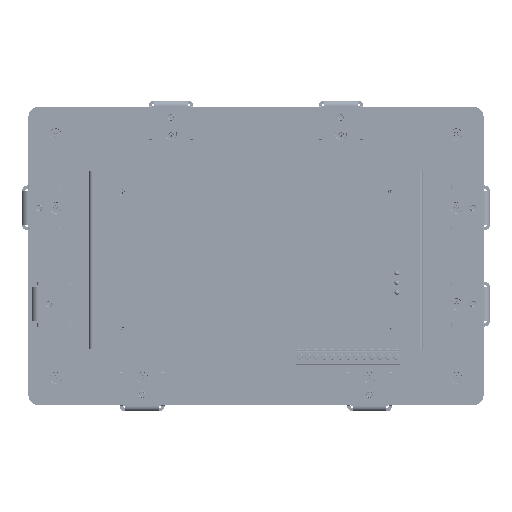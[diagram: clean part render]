
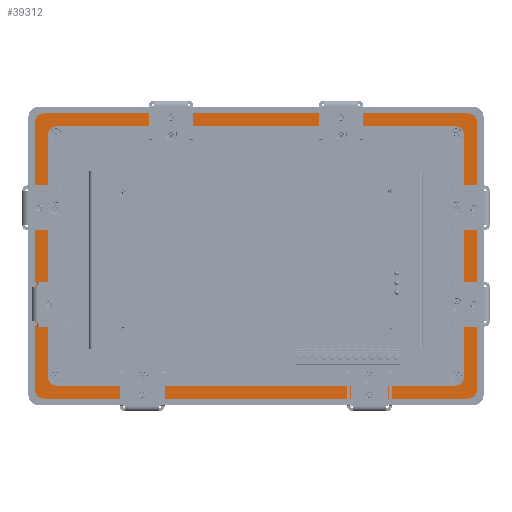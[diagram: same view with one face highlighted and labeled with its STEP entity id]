
A CAD part, left-side view. The second image highlights one B-rep face of the part: STEP entity #39312.
In plain terms, the highlighted planar face has unit normal (-1, 0, 0).
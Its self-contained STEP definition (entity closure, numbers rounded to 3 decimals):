
#39312=ADVANCED_FACE('',(#96126,#96128),#96130,.F.);
#96126=FACE_BOUND('',#96127,.T.);
#96127=EDGE_LOOP('',(#149081,#149082,#149083,#149084,#149085,#149086,#149087,#149088));
#96128=FACE_BOUND('',#96129,.T.);
#96129=EDGE_LOOP('',(#149089,#149090,#149091,#149092,#149093,#149094,#149095,#149096));
#96130=PLANE('',#96131);
#96131=AXIS2_PLACEMENT_3D('',#96132,#96133,#96134);
#96132=CARTESIAN_POINT('',(-5.,0.,0.));
#96133=DIRECTION('',(1.,0.,0.));
#96134=DIRECTION('',(0.,1.,0.));
#149081=ORIENTED_EDGE('',*,*,#180272,.F.);
#149082=ORIENTED_EDGE('',*,*,#180273,.F.);
#149083=ORIENTED_EDGE('',*,*,#180274,.F.);
#149084=ORIENTED_EDGE('',*,*,#180275,.F.);
#149085=ORIENTED_EDGE('',*,*,#180276,.F.);
#149086=ORIENTED_EDGE('',*,*,#180277,.F.);
#149087=ORIENTED_EDGE('',*,*,#180278,.F.);
#149088=ORIENTED_EDGE('',*,*,#180279,.F.);
#149089=ORIENTED_EDGE('',*,*,#179857,.T.);
#149090=ORIENTED_EDGE('',*,*,#179855,.T.);
#149091=ORIENTED_EDGE('',*,*,#179837,.T.);
#149092=ORIENTED_EDGE('',*,*,#179835,.T.);
#149093=ORIENTED_EDGE('',*,*,#179817,.T.);
#149094=ORIENTED_EDGE('',*,*,#179815,.T.);
#149095=ORIENTED_EDGE('',*,*,#179797,.T.);
#149096=ORIENTED_EDGE('',*,*,#179875,.T.);
#179797=EDGE_CURVE('',#229971,#229969,#229972,.F.);
#179815=EDGE_CURVE('',#230006,#229971,#230007,.F.);
#179817=EDGE_CURVE('',#230009,#230006,#230010,.F.);
#179835=EDGE_CURVE('',#230044,#230009,#230045,.F.);
#179837=EDGE_CURVE('',#230047,#230044,#230048,.F.);
#179855=EDGE_CURVE('',#230082,#230047,#230083,.F.);
#179857=EDGE_CURVE('',#230085,#230082,#230086,.F.);
#179875=EDGE_CURVE('',#229969,#230085,#230120,.F.);
#180272=EDGE_CURVE('',#230873,#230874,#230875,.T.);
#180273=EDGE_CURVE('',#230876,#230873,#230877,.T.);
#180274=EDGE_CURVE('',#230878,#230876,#230879,.T.);
#180275=EDGE_CURVE('',#230880,#230878,#230881,.T.);
#180276=EDGE_CURVE('',#230882,#230880,#230883,.T.);
#180277=EDGE_CURVE('',#230884,#230882,#230885,.T.);
#180278=EDGE_CURVE('',#230886,#230884,#230887,.T.);
#180279=EDGE_CURVE('',#230874,#230886,#230888,.T.);
#229969=VERTEX_POINT('',#299646);
#229971=VERTEX_POINT('',#299650);
#229972=LINE('',#299651,#299652);
#230006=VERTEX_POINT('',#299721);
#230007=CIRCLE('',#299722,6.);
#230009=VERTEX_POINT('',#299729);
#230010=LINE('',#299730,#299731);
#230044=VERTEX_POINT('',#299800);
#230045=CIRCLE('',#299801,6.);
#230047=VERTEX_POINT('',#299808);
#230048=LINE('',#299809,#299810);
#230082=VERTEX_POINT('',#299879);
#230083=CIRCLE('',#299880,6.);
#230085=VERTEX_POINT('',#299887);
#230086=LINE('',#299888,#299889);
#230120=CIRCLE('',#299958,6.);
#230873=VERTEX_POINT('',#301706);
#230874=VERTEX_POINT('',#301707);
#230875=LINE('',#301708,#301709);
#230876=VERTEX_POINT('',#301711);
#230877=CIRCLE('',#301712,6.);
#230878=VERTEX_POINT('',#301716);
#230879=LINE('',#301717,#301718);
#230880=VERTEX_POINT('',#301720);
#230881=CIRCLE('',#301721,6.);
#230882=VERTEX_POINT('',#301725);
#230883=LINE('',#301726,#301727);
#230884=VERTEX_POINT('',#301729);
#230885=CIRCLE('',#301730,6.);
#230886=VERTEX_POINT('',#301734);
#230887=LINE('',#301735,#301736);
#230888=CIRCLE('',#301738,6.);
#299646=CARTESIAN_POINT('',(-5.,124.,-81.));
#299650=CARTESIAN_POINT('',(-5.,-124.,-81.));
#299651=CARTESIAN_POINT('',(-5.,124.,-81.));
#299652=VECTOR('',#299653,1.);
#299653=DIRECTION('',(0.,-1.,0.));
#299721=CARTESIAN_POINT('',(-5.,-130.,-75.));
#299722=AXIS2_PLACEMENT_3D('',#299723,#299724,#299725);
#299723=CARTESIAN_POINT('',(-5.,-124.,-75.));
#299724=DIRECTION('',(-1.,0.,0.));
#299725=DIRECTION('',(0.,0.,-1.));
#299729=CARTESIAN_POINT('',(-5.,-130.,75.));
#299730=CARTESIAN_POINT('',(-5.,-130.,-75.));
#299731=VECTOR('',#299732,1.);
#299732=DIRECTION('',(0.,0.,1.));
#299800=CARTESIAN_POINT('',(-5.,-124.,81.));
#299801=AXIS2_PLACEMENT_3D('',#299802,#299803,#299804);
#299802=CARTESIAN_POINT('',(-5.,-124.,75.));
#299803=DIRECTION('',(-1.,0.,0.));
#299804=DIRECTION('',(0.,-1.,0.));
#299808=CARTESIAN_POINT('',(-5.,124.,81.));
#299809=CARTESIAN_POINT('',(-5.,-124.,81.));
#299810=VECTOR('',#299811,1.);
#299811=DIRECTION('',(0.,1.,0.));
#299879=CARTESIAN_POINT('',(-5.,130.,75.));
#299880=AXIS2_PLACEMENT_3D('',#299881,#299882,#299883);
#299881=CARTESIAN_POINT('',(-5.,124.,75.));
#299882=DIRECTION('',(-1.,0.,0.));
#299883=DIRECTION('',(0.,0.,1.));
#299887=CARTESIAN_POINT('',(-5.,130.,-75.));
#299888=CARTESIAN_POINT('',(-5.,130.,75.));
#299889=VECTOR('',#299890,1.);
#299890=DIRECTION('',(0.,0.,-1.));
#299958=AXIS2_PLACEMENT_3D('',#299959,#299960,#299961);
#299959=CARTESIAN_POINT('',(-5.,124.,-75.));
#299960=DIRECTION('',(-1.,0.,0.));
#299961=DIRECTION('',(0.,1.,0.));
#301706=CARTESIAN_POINT('',(-5.,132.,89.));
#301707=CARTESIAN_POINT('',(-5.,-132.,89.));
#301708=CARTESIAN_POINT('',(-5.,132.,89.));
#301709=VECTOR('',#301710,1.);
#301710=DIRECTION('',(0.,-1.,0.));
#301711=CARTESIAN_POINT('',(-5.,138.,83.));
#301712=AXIS2_PLACEMENT_3D('',#301713,#301714,#301715);
#301713=CARTESIAN_POINT('',(-5.,132.,83.));
#301714=DIRECTION('',(1.,0.,0.));
#301715=DIRECTION('',(0.,1.,0.));
#301716=CARTESIAN_POINT('',(-5.,138.,-83.));
#301717=CARTESIAN_POINT('',(-5.,138.,-83.));
#301718=VECTOR('',#301719,1.);
#301719=DIRECTION('',(0.,0.,1.));
#301720=CARTESIAN_POINT('',(-5.,132.,-89.));
#301721=AXIS2_PLACEMENT_3D('',#301722,#301723,#301724);
#301722=CARTESIAN_POINT('',(-5.,132.,-83.));
#301723=DIRECTION('',(1.,0.,0.));
#301724=DIRECTION('',(0.,0.,-1.));
#301725=CARTESIAN_POINT('',(-5.,-132.,-89.));
#301726=CARTESIAN_POINT('',(-5.,-132.,-89.));
#301727=VECTOR('',#301728,1.);
#301728=DIRECTION('',(0.,1.,0.));
#301729=CARTESIAN_POINT('',(-5.,-138.,-83.));
#301730=AXIS2_PLACEMENT_3D('',#301731,#301732,#301733);
#301731=CARTESIAN_POINT('',(-5.,-132.,-83.));
#301732=DIRECTION('',(1.,0.,0.));
#301733=DIRECTION('',(0.,-1.,0.));
#301734=CARTESIAN_POINT('',(-5.,-138.,83.));
#301735=CARTESIAN_POINT('',(-5.,-138.,83.));
#301736=VECTOR('',#301737,1.);
#301737=DIRECTION('',(0.,0.,-1.));
#301738=AXIS2_PLACEMENT_3D('',#301739,#301740,#301741);
#301739=CARTESIAN_POINT('',(-5.,-132.,83.));
#301740=DIRECTION('',(1.,0.,0.));
#301741=DIRECTION('',(0.,0.,1.));
